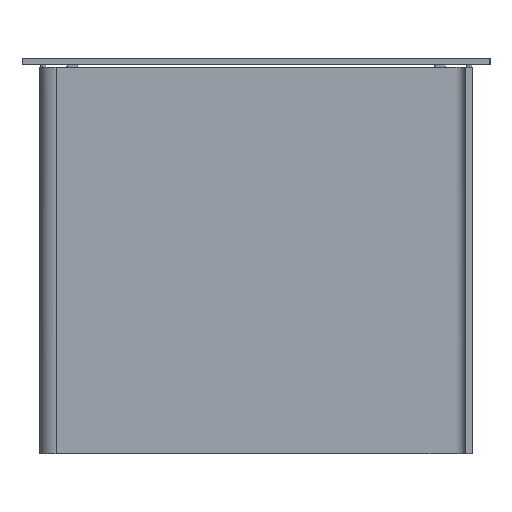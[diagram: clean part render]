
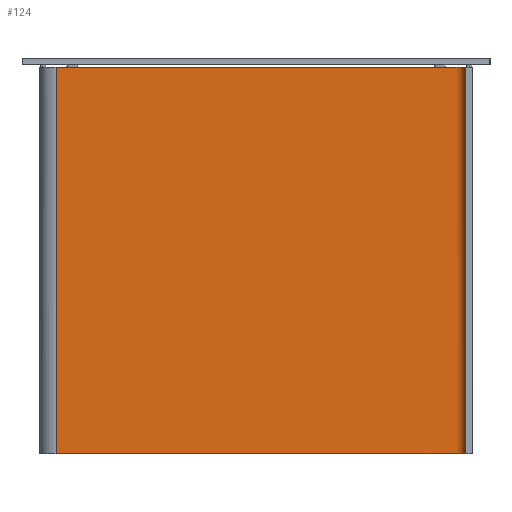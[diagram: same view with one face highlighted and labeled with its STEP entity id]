
A CAD part, left-side view. The second image highlights one B-rep face of the part: STEP entity #124.
In plain terms, the highlighted free-form (B-spline) face has degree [2, 1] with [7, 2] control points.
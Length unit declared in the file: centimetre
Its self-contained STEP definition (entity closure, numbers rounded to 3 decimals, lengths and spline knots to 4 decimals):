
#25=(
BOUNDED_SURFACE()
B_SPLINE_SURFACE(2,1,((#1143,#1144),(#1145,#1146),(#1147,#1148),(#1149,#1150),
(#1151,#1152),(#1153,#1154),(#1155,#1156)),.UNSPECIFIED.,.F.,.F.,.F.)
B_SPLINE_SURFACE_WITH_KNOTS((3,2,2,3),(2,2),(-76.5,-3.,-0.1726,
5.8274),(0.,71.),.UNSPECIFIED.)
GEOMETRIC_REPRESENTATION_ITEM()
RATIONAL_B_SPLINE_SURFACE(((1.,1.),(1.,1.),(1.,1.),(0.707,0.707),
(1.,1.),(1.,1.),(1.,1.)))
REPRESENTATION_ITEM($)
SURFACE()
);
#55=(
BOUNDED_CURVE()
B_SPLINE_CURVE(2,(#1079,#1080,#1081,#1082,#1083,#1084,#1085),.UNSPECIFIED.,
.F.,.F.)
B_SPLINE_CURVE_WITH_KNOTS((3,2,2,3),(-76.5,-3.,-0.1726,5.8274),
.UNSPECIFIED.)
CURVE()
GEOMETRIC_REPRESENTATION_ITEM()
RATIONAL_B_SPLINE_CURVE((1.,1.,1.,0.707,1.,1.,1.))
REPRESENTATION_ITEM($)
);
#59=(
BOUNDED_CURVE()
B_SPLINE_CURVE(2,(#1113,#1114,#1115,#1116,#1117,#1118,#1119),.UNSPECIFIED.,
.F.,.F.)
B_SPLINE_CURVE_WITH_KNOTS((3,2,2,3),(-5.8274,0.1726,
3.,76.5),.UNSPECIFIED.)
CURVE()
GEOMETRIC_REPRESENTATION_ITEM()
RATIONAL_B_SPLINE_CURVE((1.,1.,1.,0.707,1.,1.,1.))
REPRESENTATION_ITEM($)
);
#124=ADVANCED_FACE($,(#172),#25,.T.);
#172=FACE_OUTER_BOUND($,#220,.T.);
#220=EDGE_LOOP($,(#318,#319,#320,#321));
#318=ORIENTED_EDGE($,*,*,#453,.T.);
#319=ORIENTED_EDGE($,*,*,#449,.T.);
#320=ORIENTED_EDGE($,*,*,#443,.F.);
#321=ORIENTED_EDGE($,*,*,#442,.T.);
#442=EDGE_CURVE($,#520,#525,#55,.T.);
#443=EDGE_CURVE($,#520,#521,#602,.T.);
#449=EDGE_CURVE($,#526,#521,#59,.T.);
#453=EDGE_CURVE($,#525,#526,#607,.T.);
#520=VERTEX_POINT($,#1191);
#521=VERTEX_POINT($,#1192);
#525=VERTEX_POINT($,#1196);
#526=VERTEX_POINT($,#1197);
#602=B_SPLINE_CURVE_WITH_KNOTS($,1,(#1086,#1087),.UNSPECIFIED.,.F.,.F.,(2,
2),(0.,71.),.UNSPECIFIED.);
#607=B_SPLINE_CURVE_WITH_KNOTS($,1,(#1135,#1136),.UNSPECIFIED.,.F.,.F.,(2,
2),(0.,71.),.UNSPECIFIED.);
#1079=CARTESIAN_POINT($,(11.,79.75,0.));
#1080=CARTESIAN_POINT($,(11.,43.,0.));
#1081=CARTESIAN_POINT($,(11.,6.25,0.));
#1082=CARTESIAN_POINT($,(11.,4.45,0.));
#1083=CARTESIAN_POINT($,(9.2,4.45,0.));
#1084=CARTESIAN_POINT($,(6.2,4.45,0.));
#1085=CARTESIAN_POINT($,(3.2,4.45,0.));
#1086=CARTESIAN_POINT($,(11.,79.75,0.));
#1087=CARTESIAN_POINT($,(11.,79.75,71.));
#1113=CARTESIAN_POINT($,(3.2,4.45,71.));
#1114=CARTESIAN_POINT($,(6.2,4.45,71.));
#1115=CARTESIAN_POINT($,(9.2,4.45,71.));
#1116=CARTESIAN_POINT($,(11.,4.45,71.));
#1117=CARTESIAN_POINT($,(11.,6.25,71.));
#1118=CARTESIAN_POINT($,(11.,43.,71.));
#1119=CARTESIAN_POINT($,(11.,79.75,71.));
#1135=CARTESIAN_POINT($,(3.2,4.45,0.));
#1136=CARTESIAN_POINT($,(3.2,4.45,71.));
#1143=CARTESIAN_POINT($,(11.,79.75,0.));
#1144=CARTESIAN_POINT($,(11.,79.75,71.));
#1145=CARTESIAN_POINT($,(11.,43.,0.));
#1146=CARTESIAN_POINT($,(11.,43.,71.));
#1147=CARTESIAN_POINT($,(11.,6.25,0.));
#1148=CARTESIAN_POINT($,(11.,6.25,71.));
#1149=CARTESIAN_POINT($,(11.,4.45,0.));
#1150=CARTESIAN_POINT($,(11.,4.45,71.));
#1151=CARTESIAN_POINT($,(9.2,4.45,0.));
#1152=CARTESIAN_POINT($,(9.2,4.45,71.));
#1153=CARTESIAN_POINT($,(6.2,4.45,0.));
#1154=CARTESIAN_POINT($,(6.2,4.45,71.));
#1155=CARTESIAN_POINT($,(3.2,4.45,0.));
#1156=CARTESIAN_POINT($,(3.2,4.45,71.));
#1191=CARTESIAN_POINT($,(11.,79.75,0.));
#1192=CARTESIAN_POINT($,(11.,79.75,71.));
#1196=CARTESIAN_POINT($,(3.2,4.45,0.));
#1197=CARTESIAN_POINT($,(3.2,4.45,71.));
